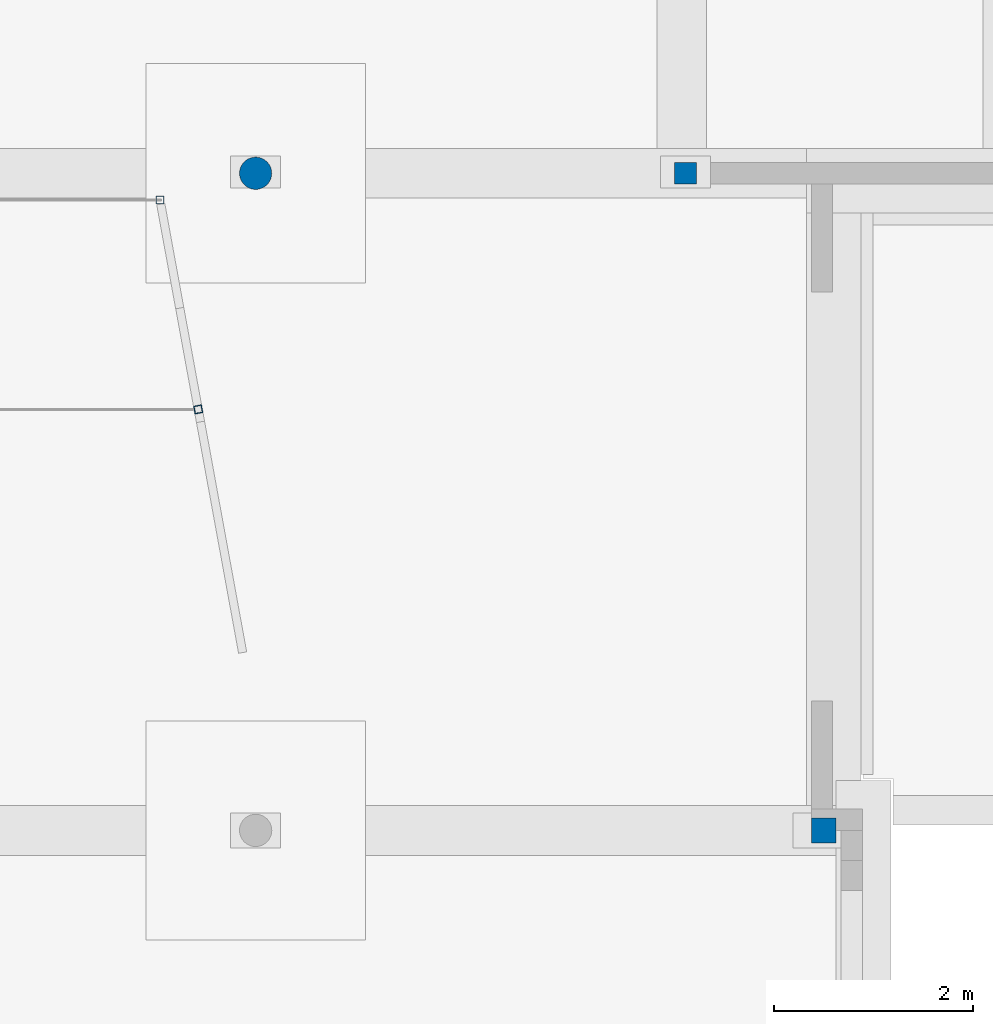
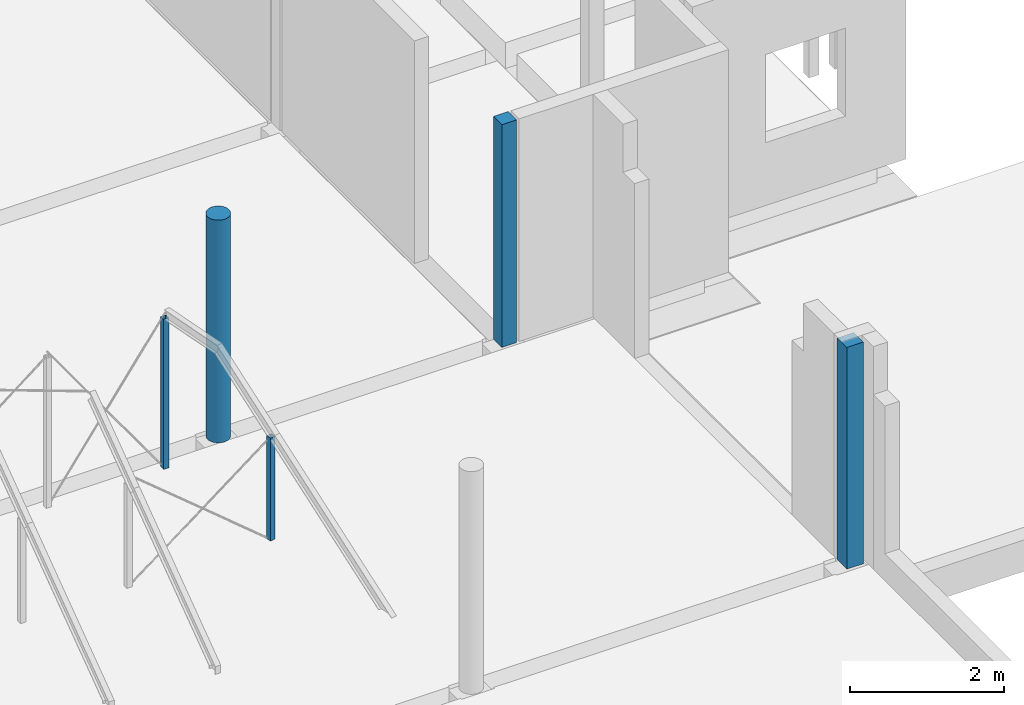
# One storey, part 6 of 17: 5 columns.
"""IFC2X3 building model written with IfcOpenShell, lengths in millimetres."""

from ifc_helpers import new_model, entity, si_unit, converted_unit, derived_unit, direction, frame, frame_2d, origin, origin_2d_with_axis, place, context, subcontext, project, spatial, polyline, rectangle, circle, hollow_circle, outline, extrude, source, transform, mapped, material, material_list, type_object, type_shapes, element, save


model = new_model("IFC2X3")

# Units and contexts
model_context = context("Model", 3, precision=0.01, world=origin(), true_north=direction((6.123031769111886e-17, 1.0)))
body_context = subcontext(model_context, "Body", "Model", "MODEL_VIEW")
ifc_project = project(units=[si_unit("LENGTHUNIT", "METRE", prefix="MILLI"), si_unit("AREAUNIT", "SQUARE_METRE", prefix="MILLI"), si_unit("VOLUMEUNIT", "CUBIC_METRE"), converted_unit("PLANEANGLEUNIT", "DEGREE", entity("IfcPlaneAngleMeasure", 0.017453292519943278), si_unit("PLANEANGLEUNIT", "RADIAN"), dimensions=[0, 0, 0, 0, 0, 0, 0]), si_unit("MASSUNIT", "GRAM", prefix="KILO"), derived_unit("MASSDENSITYUNIT", [(si_unit("MASSUNIT", "GRAM", prefix="KILO"), 1), (si_unit("LENGTHUNIT", "METRE"), -3)]), derived_unit("IONCONCENTRATIONUNIT", [(si_unit("MASSUNIT", "GRAM", prefix="KILO"), 1), (si_unit("LENGTHUNIT", "METRE"), -3)]), derived_unit("MOMENTOFINERTIAUNIT", [(si_unit("LENGTHUNIT", "METRE"), 4)]), si_unit("TIMEUNIT", "SECOND"), si_unit("FREQUENCYUNIT", "HERTZ"), si_unit("THERMODYNAMICTEMPERATUREUNIT", "DEGREE_CELSIUS"), derived_unit("THERMALTRANSMITTANCEUNIT", [(si_unit("MASSUNIT", "GRAM", prefix="KILO"), 1), (si_unit("THERMODYNAMICTEMPERATUREUNIT", "KELVIN"), -1), (si_unit("TIMEUNIT", "SECOND"), -3)]), derived_unit("THERMALCONDUCTANCEUNIT", [(si_unit("MASSUNIT", "GRAM", prefix="KILO"), 1), (si_unit("THERMODYNAMICTEMPERATUREUNIT", "KELVIN"), -1), (si_unit("TIMEUNIT", "SECOND"), -3), (si_unit("LENGTHUNIT", "METRE"), 1)]), derived_unit("VOLUMETRICFLOWRATEUNIT", [(si_unit("LENGTHUNIT", "METRE", prefix="DECI"), 3), (si_unit("TIMEUNIT", "SECOND"), -1)]), derived_unit("MASSFLOWRATEUNIT", [(si_unit("MASSUNIT", "GRAM", prefix="KILO"), 1), (si_unit("TIMEUNIT", "SECOND"), -1)]), derived_unit("ROTATIONALFREQUENCYUNIT", [(si_unit("TIMEUNIT", "SECOND"), -1)]), si_unit("ELECTRICCURRENTUNIT", "AMPERE"), si_unit("ELECTRICVOLTAGEUNIT", "VOLT"), si_unit("POWERUNIT", "WATT"), si_unit("FORCEUNIT", "NEWTON", prefix="KILO"), si_unit("ILLUMINANCEUNIT", "LUX"), si_unit("LUMINOUSFLUXUNIT", "LUMEN"), si_unit("LUMINOUSINTENSITYUNIT", "CANDELA"), si_unit("ENERGYUNIT", "JOULE"), derived_unit("USERDEFINED", [(si_unit("MASSUNIT", "GRAM", prefix="KILO"), -1), (si_unit("LENGTHUNIT", "METRE"), -2), (si_unit("TIMEUNIT", "SECOND"), 3), (si_unit("LUMINOUSFLUXUNIT", "LUMEN"), 1)]), derived_unit("USERDEFINED", [(si_unit("MASSUNIT", "GRAM", prefix="KILO"), 1), (si_unit("TIMEUNIT", "SECOND"), -3), (si_unit("LENGTHUNIT", "METRE"), 3), (si_unit("ELECTRICCURRENTUNIT", "AMPERE"), -2)]), derived_unit("SOUNDPOWERUNIT", [(si_unit("MASSUNIT", "GRAM", prefix="KILO"), 1), (si_unit("TIMEUNIT", "SECOND"), -3), (si_unit("LENGTHUNIT", "METRE"), 2)]), derived_unit("SOUNDPRESSUREUNIT", [(si_unit("MASSUNIT", "GRAM", prefix="KILO"), 1), (si_unit("LENGTHUNIT", "METRE"), -1), (si_unit("TIMEUNIT", "SECOND"), -2)]), derived_unit("LINEARVELOCITYUNIT", [(si_unit("LENGTHUNIT", "METRE"), 1), (si_unit("TIMEUNIT", "SECOND"), -1)]), si_unit("PRESSUREUNIT", "PASCAL"), derived_unit("USERDEFINED", [(si_unit("MASSUNIT", "GRAM", prefix="KILO"), 1), (si_unit("LENGTHUNIT", "METRE"), -2), (si_unit("TIMEUNIT", "SECOND"), -2)]), derived_unit("LINEARFORCEUNIT", [(si_unit("MASSUNIT", "GRAM", prefix="KILO"), 1), (si_unit("TIMEUNIT", "SECOND"), -2)]), derived_unit("PLANARFORCEUNIT", [(si_unit("MASSUNIT", "GRAM", prefix="KILO"), 1), (si_unit("LENGTHUNIT", "METRE"), -1), (si_unit("TIMEUNIT", "SECOND"), -2)]), derived_unit("SPECIFICHEATCAPACITYUNIT", [(si_unit("THERMODYNAMICTEMPERATUREUNIT", "KELVIN"), -1), (si_unit("LENGTHUNIT", "METRE"), 2), (si_unit("TIMEUNIT", "SECOND"), -2)]), derived_unit("HEATFLUXDENSITYUNIT", [(si_unit("MASSUNIT", "GRAM", prefix="KILO"), 1), (si_unit("TIMEUNIT", "SECOND"), -3)]), derived_unit("HEATINGVALUEUNIT", [(si_unit("LENGTHUNIT", "METRE"), 2), (si_unit("TIMEUNIT", "SECOND"), -2)]), derived_unit("VAPORPERMEABILITYUNIT", [(si_unit("LENGTHUNIT", "METRE"), -1), (si_unit("TIMEUNIT", "SECOND"), 1)]), derived_unit("DYNAMICVISCOSITYUNIT", [(si_unit("MASSUNIT", "GRAM", prefix="KILO"), 1), (si_unit("TIMEUNIT", "SECOND"), -1), (si_unit("LENGTHUNIT", "METRE"), -1)]), derived_unit("THERMALEXPANSIONCOEFFICIENTUNIT", [(si_unit("THERMODYNAMICTEMPERATUREUNIT", "KELVIN"), -1)]), derived_unit("MODULUSOFELASTICITYUNIT", [(si_unit("MASSUNIT", "GRAM", prefix="KILO"), 1), (si_unit("LENGTHUNIT", "METRE"), -1), (si_unit("TIMEUNIT", "SECOND"), -2)]), derived_unit("ISOTHERMALMOISTURECAPACITYUNIT", [(si_unit("MASSUNIT", "GRAM", prefix="KILO"), -1), (si_unit("LENGTHUNIT", "METRE"), 3)]), derived_unit("MOISTUREDIFFUSIVITYUNIT", [(si_unit("TIMEUNIT", "SECOND"), -1), (si_unit("LENGTHUNIT", "METRE"), 2)]), derived_unit("MASSPERLENGTHUNIT", [(si_unit("MASSUNIT", "GRAM", prefix="KILO"), 1), (si_unit("LENGTHUNIT", "METRE"), -1)]), derived_unit("THERMALRESISTANCEUNIT", [(si_unit("MASSUNIT", "GRAM", prefix="KILO"), -1), (si_unit("TIMEUNIT", "SECOND"), 3), (si_unit("THERMODYNAMICTEMPERATUREUNIT", "KELVIN"), 1)]), derived_unit("ACCELERATIONUNIT", [(si_unit("LENGTHUNIT", "METRE"), 1), (si_unit("TIMEUNIT", "SECOND"), -2)]), derived_unit("ANGULARVELOCITYUNIT", [(si_unit("TIMEUNIT", "SECOND"), -1), (si_unit("PLANEANGLEUNIT", "RADIAN"), 1)]), derived_unit("LINEARSTIFFNESSUNIT", [(si_unit("MASSUNIT", "GRAM", prefix="KILO"), 1), (si_unit("TIMEUNIT", "SECOND"), -2)]), derived_unit("WARPINGCONSTANTUNIT", [(si_unit("LENGTHUNIT", "METRE"), 6)]), derived_unit("LINEARMOMENTUNIT", [(si_unit("MASSUNIT", "GRAM", prefix="KILO"), 1), (si_unit("LENGTHUNIT", "METRE"), 1), (si_unit("TIMEUNIT", "SECOND"), -2)]), derived_unit("TORQUEUNIT", [(si_unit("MASSUNIT", "GRAM", prefix="KILO"), 1), (si_unit("LENGTHUNIT", "METRE"), 2), (si_unit("TIMEUNIT", "SECOND"), -2)])], contexts=[model_context])

# Site, building, storey
site_placement = place(None, origin())
site = spatial("IfcSite", under=ifc_project, at=site_placement, Name="Default", CompositionType="ELEMENT")
building_placement = place(site_placement, origin())
building = spatial("IfcBuilding", under=site, at=building_placement, CompositionType="ELEMENT")
storey_placement = place(building_placement, frame((0.0, 0.0, -70.0)))
storey = spatial("IfcBuildingStorey", under=building, at=storey_placement, Name="F1 begg (bk ruwe vloer)", CompositionType="ELEMENT", Elevation=-69.99999999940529)

# Columns
ifc_material_1 = material(Name="Concrete - Cast-in-Place - C30/37")
ifc_material_2 = material(Name="Metal - Steel - S235 JRG2 (standaard)")
ifc_material_list_1 = material_list([ifc_material_1, ifc_material_2])
column_type_1 = type_object("IfcColumnType", Name="btk_staal - Buis + beton:Ø323.9x10", PredefinedType="COLUMN", material=ifc_material_list_1)
shared_shape_1 = source(origin(), body_context, "Body", "SweptSolid", [
    extrude(circle(Radius=151.95000000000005, at=frame_2d((-8.977166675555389e-16, -6.689666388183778e-13), x_axis=(1.0, 0.0))), frame((0.0, 0.0, -70.0)), (0.0, 0.0, 1.0), 3539.9999999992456),
    extrude(hollow_circle(Radius=161.94999999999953, WallThickness=9.999999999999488, at=frame_2d((-4.05403947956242e-15, 6.156028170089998e-13), x_axis=(1.0, 0.0))), frame((0.0, 0.0, -70.0)), (0.0, 0.0, 1.0), 3539.9999999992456),
])
type_shapes(column_type_1, [shared_shape_1])
column_1_placement = place(storey_placement, frame((23249.98660715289, 31937.573205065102, 70.0)))
element("IfcColumn", 1, at=column_1_placement, inside=storey, type_object=column_type_1, material=ifc_material_list_1, Name="btk_staal - Buis + beton:Ø323.9x10", ObjectType="btk_staal - Buis + beton:Ø323.9x10", context=body_context, shape_type="MappedRepresentation", body=[
    mapped(shared_shape_1, transform((0.0, 0.0, 0.0), scale=1.0)),
])
ifc_material_3 = material(Name="Metal - Steel - S275 J0H (standaard-kokers/buizen)")
ifc_material_list_2 = material_list([ifc_material_1, ifc_material_3])
column_type_2 = type_object("IfcColumnType", Name="btk_staal - Koker + beton:K250x250x8.0", PredefinedType="COLUMN", material=ifc_material_list_2)
shared_shape_2 = source(origin(), body_context, "Body", "SweptSolid", [
    extrude(rectangle(XDim=233.99999999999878, YDim=233.99999999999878, at=origin_2d_with_axis()), frame((28949.982962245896, 25344.605013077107, -70.0), z_axis=(0.0, 0.0, 1.0), x_axis=(-1.0, 0.0, 0.0)), (0.0, 0.0, 1.0), 3524.9999999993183),
    extrude(outline(polyline([(-125.0, -125.0), (125.0, -125.0), (125.0, 125.0), (-125.0, 125.0), (-125.0, -125.0)]), holes=[polyline([(-117.0, -117.0), (-117.0, 117.0), (117.0, 117.0), (117.0, -117.0), (-117.0, -117.0)])]), frame((28949.982962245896, 25344.605013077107, -70.0), z_axis=(0.0, 0.0, 1.0), x_axis=(-1.0, 0.0, 0.0)), (0.0, 0.0, 1.0), 3524.9999999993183),
])
type_shapes(column_type_2, [shared_shape_2])
column_2_placement = place(storey_placement, frame((0.0, 0.0, 70.0)))
element("IfcColumn", 2, at=column_2_placement, inside=storey, type_object=column_type_2, material=ifc_material_list_2, Name="btk_staal - Koker + beton:K250x250x8.0", ObjectType="btk_staal - Koker + beton:K250x250x8.0", context=body_context, shape_type="MappedRepresentation", body=[
    mapped(shared_shape_2, transform((0.0, 0.0, 0.0), scale=1.0)),
])
column_type_3 = type_object("IfcColumnType", Name="btk_staal - Koker + beton:K220x220x8", PredefinedType="COLUMN", material=ifc_material_list_2)
shared_shape_3 = source(origin(), body_context, "Body", "SweptSolid", [
    extrude(rectangle(XDim=204.00000000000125, YDim=204.00000000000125, at=frame_2d((-2.1671553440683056e-12, -2.1671553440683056e-12), x_axis=(1.0, 0.0))), frame((27562.885853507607, 31937.57316510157, -70.0), z_axis=(0.0, 0.0, 1.0), x_axis=(-1.0, 0.0, 0.0)), (0.0, 0.0, 1.0), 3539.9999999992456),
    extrude(outline(polyline([(-110.0, -110.0), (110.0, -110.0), (110.0, 110.0), (-110.0, 110.0), (-110.0, -110.0)]), holes=[polyline([(-102.0, -102.0), (-102.0, 102.0), (102.0, 102.0), (102.0, -102.0), (-102.0, -102.0)])]), frame((27562.885853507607, 31937.573165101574, -70.0), z_axis=(0.0, 0.0, 1.0), x_axis=(-1.0, 0.0, 0.0)), (0.0, 0.0, 1.0), 3539.9999999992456),
])
type_shapes(column_type_3, [shared_shape_3])
column_3_placement = place(storey_placement, frame((0.0, 0.0, 70.0)))
element("IfcColumn", 3, at=column_3_placement, inside=storey, type_object=column_type_3, material=ifc_material_list_2, Name="btk_staal - Koker + beton:K220x220x8", ObjectType="btk_staal - Koker + beton:K220x220x8", context=body_context, shape_type="MappedRepresentation", body=[
    mapped(shared_shape_3, transform((0.0, 0.0, 0.0), scale=1.0)),
])
column_type_4 = type_object("IfcColumnType", Name="btk_staal - Koker:K80x80x6", PredefinedType="COLUMN", material=ifc_material_3)
shared_shape_4 = source(origin(), body_context, "Body", "SweptSolid", [
    extrude(outline(polyline([(-40.0, -40.0), (40.0, -40.0), (40.0, 40.0), (-40.0, 40.0), (-40.0, -40.0)]), holes=[polyline([(-34.0, -34.0), (-34.0, 34.0), (34.0, 34.0), (34.0, -34.0), (-34.0, -34.0)])]), frame((22290.645339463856, 31668.561065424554, -70.0), z_axis=(0.0, 0.0, 1.0), x_axis=(-1.0, 0.0, 0.0)), (0.0, 0.0, 1.0), 2382.5999999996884),
])
type_shapes(column_type_4, [shared_shape_4])
column_4_placement = place(storey_placement, frame((0.0, 0.0, 70.0)))
element("IfcColumn", 4, at=column_4_placement, inside=storey, type_object=column_type_4, material=ifc_material_3, Name="btk_staal - Koker:K80x80x6", ObjectType="btk_staal - Koker:K80x80x6", context=body_context, shape_type="MappedRepresentation", body=[
    mapped(shared_shape_4, transform((0.0, 0.0, 0.0), scale=1.0)),
])
column_type_5 = type_object("IfcColumnType", Name="btk_staal - Koker:K80x80x6", PredefinedType="COLUMN", material=ifc_material_3)
shared_shape_5 = source(origin(), body_context, "Body", "SweptSolid", [
    extrude(outline(polyline([(-40.0, -40.0), (40.0, -40.0), (40.0, 40.0), (-40.0, 40.0), (-40.0, -40.0)]), holes=[polyline([(-34.0, -34.0), (-34.0, 34.0), (34.0, 34.0), (34.0, -34.0), (-34.0, -34.0)])]), frame((22674.038303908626, 29568.561065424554, -70.0), z_axis=(0.0, 0.0, 1.0), x_axis=(-0.9837398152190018, -0.17959948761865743, 0.0)), (0.0, 0.0, 1.0), 1637.6810632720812),
])
type_shapes(column_type_5, [shared_shape_5])
column_5_placement = place(storey_placement, frame((0.0, 0.0, 70.0)))
element("IfcColumn", 5, at=column_5_placement, inside=storey, type_object=column_type_5, material=ifc_material_3, Name="btk_staal - Koker:K80x80x6", ObjectType="btk_staal - Koker:K80x80x6", context=body_context, shape_type="MappedRepresentation", body=[
    mapped(shared_shape_5, transform((0.0, 0.0, 0.0), scale=1.0)),
])

save(model, "model.ifc")
